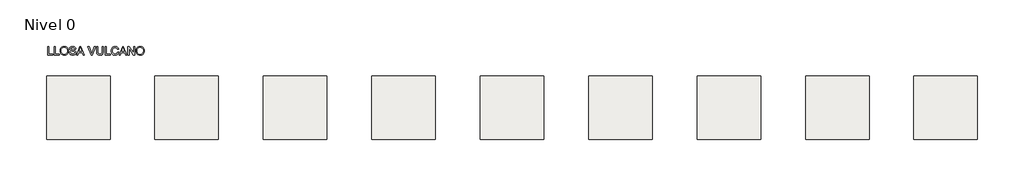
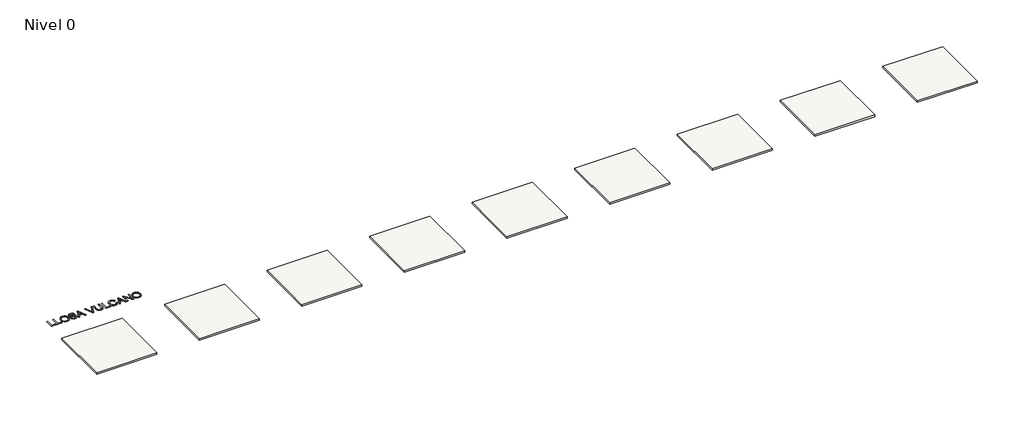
# One storey, incomplete: 9 slabs, 1 proxy.
"""IFC4 building model written with IfcOpenShell, lengths in millimetres."""

from ifc_helpers import new_model, si_unit, frame, origin, origin_with_axes, place, context, project, spatial, polyline, outline, extrude, element, save

model = new_model("IFC4")

# Units and contexts
model_context = context("Model", 3, world=origin())
ifc_project = project(units=[si_unit("LENGTHUNIT", "METRE", prefix="MILLI")], contexts=[model_context])

# Site, building, storey
site = spatial("IfcSite", under=ifc_project)
building = spatial("IfcBuilding", under=site)
storey = spatial("IfcBuildingStorey", under=building, Name="Nivel 0", Elevation=0.0)

# Proxy
placement = place(None, origin())
element("IfcBuildingElementProxy", 1, Name="Texto_plantilla_0.4", ObjectType="Texto_plantilla_0.4", at=placement, inside=storey, context=model_context, shape_type="SweptSolid", body=[
    extrude(outline(polyline([(-14473.0242569, -2202.864003), (-14473.0242569, -1801.0387624), (-14422.7961018, -1801.0387624), (-14422.7961018, -2152.635848), (-14221.8834815, -2152.635848), (-14221.8834815, -2202.864003), (-14473.0242569, -2202.864003)])), origin_with_axes(), (0.0, 0.0, 1.0), 10.0),
    extrude(outline(polyline([(-14165.376807, -2202.864003), (-14165.376807, -1801.0387624), (-14115.148652, -1801.0387624), (-14115.148652, -2152.635848), (-13914.2360317, -2152.635848), (-13914.2360317, -2202.864003), (-14165.376807, -2202.864003)])), origin_with_axes(), (0.0, 0.0, 1.0), 10.0),
    extrude(outline(polyline([(-13876.5649154, -2007.2488835), (-13873.2171892, -1960.1170685), (-13863.1740107, -1918.3931189), (-13846.43538, -1882.0770346), (-13823.0012969, -1851.1688157), (-13794.2758444, -1826.4900651), (-13761.6631055, -1808.8623862), (-13725.1630802, -1798.2857788), (-13684.7757685, -1794.7602431), (-13657.7425733, -1796.415712), (-13632.0705414, -1801.382119), (-13607.7596729, -1809.6594639), (-13584.8099677, -1821.2477467), (-13563.8652195, -1835.7974796), (-13545.5692216, -1852.9591747), (-13529.921974, -1872.7328319), (-13516.9234769, -1895.1184513), (-13506.7086201, -1919.6071295), (-13499.4122939, -1945.6899629), (-13493.5752329, -2002.6380958), (-13495.1111402, -2032.295516), (-13499.7188622, -2060.3465181), (-13507.3983989, -2086.7911022), (-13518.1497502, -2111.6292682), (-13531.7184645, -2134.20496), (-13547.8500899, -2153.8621213), (-13566.5446267, -2170.6007521), (-13587.8020746, -2184.4208524), (-13610.7855023, -2195.236583), (-13634.6579781, -2202.9621049), (-13659.419502, -2207.597418), (-13685.0700741, -2209.1425224), (-13712.5753846, -2207.4349368), (-13738.5846417, -2202.3121801), (-13763.0978453, -2193.7742521), (-13786.1149955, -2181.8211529), (-13807.0352183, -2166.9158007), (-13825.2576398, -2149.5211137), (-13840.78226, -2129.6370919), (-13853.6090789, -2107.2637352), (-13870.8259562, -2058.6419982), (-13876.5649154, -2007.2488835)]), holes=[polyline([(-13826.3367603, -2007.7393928), (-13823.8259657, -2041.0388447), (-13816.2935818, -2070.598163), (-13803.7396087, -2096.4173477), (-13786.1640464, -2118.4963988), (-13764.7992995, -2136.1792601), (-13740.8777728, -2148.8098752), (-13714.3994662, -2156.3882443), (-13685.3643797, -2158.9143674), (-13655.8326526, -2156.3637189), (-13629.0416463, -2148.7117734), (-13604.9913608, -2135.9585309), (-13583.6817963, -2118.1039914), (-13566.2349926, -2095.5589564), (-13553.7729901, -2068.7342276), (-13546.2957885, -2037.6298049), (-13543.803388, -2002.2456883), (-13548.0708191, -1957.7810179), (-13560.8731126, -1919.3496121), (-13581.8791745, -1887.920227), (-13610.7579111, -1864.4616184), (-13645.5963361, -1849.8567032), (-13684.4814629, -1844.9883981), (-13712.5079396, -1847.3336459), (-13738.5110653, -1854.369389), (-13762.49084, -1866.0956276), (-13784.4472638, -1882.5123616), (-13802.7739185, -1904.4105374), (-13815.8643862, -1932.5811012), (-13823.7186668, -1967.024053), (-13826.3367603, -2007.7393928)])]), origin_with_axes(), (0.0, 0.0, 1.0), 10.0),
    extrude(outline(polyline([(-13443.3470778, -2064.7365766), (-13393.1189228, -2064.7365766), (-13387.3554382, -2092.6097691), (-13376.932115, -2115.0137826), (-13360.6717308, -2132.7947457), (-13337.3970632, -2146.798787), (-13308.9475223, -2155.8854723), (-13277.1625179, -2158.9143674), (-13249.1789608, -2156.6212363), (-13224.6780199, -2149.7418429), (-13204.8246549, -2138.8525359), (-13190.7838254, -2124.5296635), (-13182.4329041, -2108.0853384), (-13179.6492637, -2090.8316728), (-13181.7339283, -2074.0194656), (-13187.9879223, -2059.4881268), (-13200.6921138, -2047.0905036), (-13222.1273714, -2036.6794431), (-13295.2623121, -2017.5005284), (-13343.2709124, -2004.8085996), (-13373.989059, -1992.7298074), (-13398.992772, -1975.8317611), (-13416.7124214, -1955.3529967), (-13427.2706347, -1931.7349726), (-13430.7900391, -1905.4191472), (-13426.4367688, -1876.0008503), (-13413.376958, -1848.5691162), (-13391.9539631, -1825.3189741), (-13362.5111408, -1808.4454533), (-13327.1699438, -1798.1815456), (-13288.0518249, -1794.7602431), (-13245.6718191, -1798.3409611), (-13208.589314, -1809.0831154), (-13178.1286848, -1826.7659766), (-13155.6143067, -1851.1688157), (-13141.3650107, -1880.7710535), (-13135.699628, -1914.0521114), (-13185.9277831, -1914.0521114), (-13195.1493584, -1884.0819915), (-13203.5125425, -1872.2239285), (-13214.377324, -1862.4505302), (-13244.4210203, -1849.3539311), (-13286.0897876, -1844.9883981), (-13328.7395736, -1849.3048802), (-13345.0428774, -1854.7004828), (-13357.998455, -1862.2543264), (-13374.9210267, -1881.3106138), (-13380.561884, -1903.9476192), (-13376.564233, -1923.2491612), (-13364.5712799, -1938.7737814), (-13336.2198408, -1952.6551954), (-13282.5581205, -1966.8309149), (-13227.1796175, -1980.295396), (-13193.6778305, -1992.0430943), (-13165.0443485, -2010.2655158), (-13145.0683562, -2032.7553685), (-13133.3329205, -2059.2673976), (-13129.4211086, -2089.5563485), (-13133.9215317, -2120.5197498), (-13147.4228009, -2149.6437411), (-13169.3730933, -2174.7087677), (-13199.2205858, -2193.4952749), (-13235.1136058, -2205.2307105), (-13275.2004806, -2209.1425224), (-13324.4108288, -2204.9241422), (-13364.9146365, -2192.2690016), (-13397.1778874, -2171.1280496), (-13421.6665656, -2141.4522353), (-13437.3873895, -2105.3016979), (-13443.3470778, -2064.7365766)])), origin_with_axes(), (0.0, 0.0, 1.0), 10.0),
    extrude(outline(polyline([(-13100.8734658, -2202.864003), (-12940.4769159, -1801.0387624), (-12897.7045026, -1801.0387624), (-12737.3079527, -2202.864003), (-12790.3810619, -2202.864003), (-12836.3908367, -2077.2936154), (-13001.8886836, -2077.2936154), (-13047.8003566, -2202.864003), (-13100.8734658, -2202.864003)]), holes=[polyline([(-12983.4455329, -2027.0654603), (-12854.7358856, -2027.0654603), (-12890.9354739, -1928.2768818), (-12919.0907093, -1851.2669175), (-12944.1066849, -1919.6439177), (-12983.4455329, -2027.0654603)])]), origin_with_axes(), (0.0, 0.0, 1.0), 10.0),
    extrude(outline(polyline([(-12407.9799906, -2202.864003), (-12567.8860312, -1801.0387624), (-12514.126209, -1801.0387624), (-12407.0970738, -2090.5373672), (-12385.4165616, -2155.7751077), (-12364.0303549, -2090.5373672), (-12256.7069142, -1801.0387624), (-12202.947092, -1801.0387624), (-12356.0841038, -2202.864003), (-12407.9799906, -2202.864003)])), origin_with_axes(), (0.0, 0.0, 1.0), 10.0),
    extrude(outline(polyline([(-11892.5527899, -1801.0387624), (-11842.3246348, -1801.0387624), (-11842.3246348, -2032.8534703), (-11845.7336747, -2087.1405901), (-11855.9607941, -2128.9442475), (-11864.1461685, -2145.8974761), (-11875.0661324, -2161.1952357), (-11905.1098287, -2186.8243481), (-11924.2519552, -2196.5885493), (-11946.1654593, -2203.5629788), (-11998.3066008, -2209.1425224), (-12049.3073081, -2204.2864801), (-12090.0808959, -2189.7183531), (-12106.6355856, -2178.9179508), (-12120.6396269, -2165.9409135), (-12132.0930197, -2150.7872409), (-12140.995764, -2133.4569333), (-12152.436894, -2089.8874423), (-12156.2506041, -2032.8534703), (-12156.2506041, -1801.0387624), (-12106.022449, -1801.0387624), (-12106.022449, -2031.0876368), (-12103.5453769, -2076.2267576), (-12096.1141606, -2107.6561427), (-12082.6496796, -2129.4224941), (-12062.0728133, -2145.5725137), (-12035.2419531, -2155.5789039), (-12003.0154903, -2158.9143674), (-11975.3323702, -2157.2650297), (-11951.9289439, -2152.3170169), (-11932.8052115, -2144.0703288), (-11917.961173, -2132.5249656), (-11906.8450054, -2116.2891068), (-11898.9048857, -2093.9709325), (-11894.1408139, -2065.5704424), (-11892.5527899, -2031.0876368), (-11892.5527899, -1801.0387624)])), origin_with_axes(), (0.0, 0.0, 1.0), 10.0),
    extrude(outline(polyline([(-11754.4253635, -2202.864003), (-11754.4253635, -1801.0387624), (-11704.1972084, -1801.0387624), (-11704.1972084, -2152.635848), (-11503.2845881, -2152.635848), (-11503.2845881, -2202.864003), (-11754.4253635, -2202.864003)])), origin_with_axes(), (0.0, 0.0, 1.0), 10.0),
    extrude(outline(polyline([(-11164.2445413, -2060.0276871), (-11114.0163863, -2072.9771333), (-11123.9553315, -2104.2133804), (-11137.1929519, -2131.5071587), (-11153.7292476, -2154.8584684), (-11173.5642185, -2174.2673093), (-11196.2502749, -2189.525215), (-11221.339827, -2200.4237191), (-11248.8328747, -2206.9628216), (-11278.7294182, -2209.1425224), (-11309.35866, -2207.4931848), (-11336.9896635, -2202.545172), (-11361.6224288, -2194.2984839), (-11383.2569558, -2182.7531206), (-11402.1906158, -2168.0807604), (-11418.7207801, -2150.4530815), (-11432.8474487, -2129.8700838), (-11444.5706216, -2106.3317675), (-11460.3527592, -2054.4604062), (-11465.6134718, -1998.9102249), (-11459.6660462, -1940.3188858), (-11452.2317642, -1914.0214545), (-11441.8237694, -1889.7228487), (-11428.6750538, -1867.824673), (-11413.0186092, -1848.7285318), (-11394.8544357, -1832.4344251), (-11374.1825332, -1818.9423529), (-11351.7049433, -1808.3626798), (-11328.1237074, -1800.8057705), (-11277.6502977, -1794.7602431), (-11248.9217796, -1796.716149), (-11222.578363, -1802.5838668), (-11198.6200481, -1812.3633965), (-11177.0468348, -1826.0547381), (-11158.2143423, -1843.296141), (-11142.4781899, -1863.7258544), (-11129.8383777, -1887.3438785), (-11120.2949056, -1914.1502132), (-11170.5230607, -1926.1186408), (-11187.9361418, -1889.4898568), (-11211.7258442, -1864.3635165), (-11242.1864734, -1849.8321777), (-11279.612335, -1844.9883981), (-11322.7526303, -1850.3594753), (-11341.4349043, -1857.0733217), (-11358.1919292, -1866.4727067), (-11385.084103, -1891.6358351), (-11402.5830233, -1924.1566035), (-11412.1847433, -1960.9202775), (-11415.3853167, -1998.8121231), (-11411.5961321, -2045.2143054), (-11400.2285785, -2085.3379683), (-11380.8534601, -2117.6502702), (-11353.0415812, -2140.6183695), (-11319.6992098, -2154.3403679), (-11283.7326134, -2158.9143674), (-11261.8957513, -2157.3570002), (-11241.8063286, -2152.6848989), (-11223.4643455, -2144.8980633), (-11206.8698018, -2133.9964935), (-11192.4151051, -2120.0292405), (-11180.4926628, -2103.045355), (-11171.1024749, -2083.0448372), (-11164.2445413, -2060.0276871)])), origin_with_axes(), (0.0, 0.0, 1.0), 10.0),
    extrude(outline(polyline([(-11091.7472628, -2202.864003), (-10931.3507129, -1801.0387624), (-10888.5782996, -1801.0387624), (-10728.1817497, -2202.864003), (-10781.2548589, -2202.864003), (-10827.2646337, -2077.2936154), (-10992.7624806, -2077.2936154), (-11038.6741536, -2202.864003), (-11091.7472628, -2202.864003)]), holes=[polyline([(-10974.3193299, -2027.0654603), (-10845.6096826, -2027.0654603), (-10881.8092709, -1928.2768818), (-10909.9645063, -1851.2669175), (-10934.9804819, -1919.6439177), (-10974.3193299, -2027.0654603)])]), origin_with_axes(), (0.0, 0.0, 1.0), 10.0),
    extrude(outline(polyline([(-10674.5200293, -2202.864003), (-10674.5200293, -1801.0387624), (-10620.7602071, -1801.0387624), (-10410.8222152, -2119.3793156), (-10410.8222152, -1801.0387624), (-10360.5940601, -1801.0387624), (-10360.5940601, -2202.864003), (-10414.3538824, -2202.864003), (-10624.2918743, -1884.425348), (-10624.2918743, -2202.864003), (-10674.5200293, -2202.864003)])), origin_with_axes(), (0.0, 0.0, 1.0), 10.0),
    extrude(outline(polyline([(-10291.5303469, -2007.2488835), (-10288.1826207, -1960.1170685), (-10278.1394423, -1918.3931189), (-10261.4008115, -1882.0770346), (-10237.9667284, -1851.1688157), (-10209.2412759, -1826.4900651), (-10176.6285371, -1808.8623862), (-10140.1285118, -1798.2857788), (-10099.7412001, -1794.7602431), (-10072.7080048, -1796.415712), (-10047.0359729, -1801.382119), (-10022.7251044, -1809.6594639), (-9999.7753993, -1821.2477467), (-9978.830651, -1835.7974796), (-9960.5346531, -1852.9591747), (-9944.8874056, -1872.7328319), (-9931.8889084, -1895.1184513), (-9921.6740517, -1919.6071295), (-9914.3777254, -1945.6899629), (-9908.5406645, -2002.6380958), (-9910.0765718, -2032.295516), (-9914.6842938, -2060.3465181), (-9922.3638304, -2086.7911022), (-9933.1151817, -2111.6292682), (-9946.683896, -2134.20496), (-9962.8155215, -2153.8621213), (-9981.5100582, -2170.6007521), (-10002.7675062, -2184.4208524), (-10025.7509338, -2195.236583), (-10049.6234096, -2202.9621049), (-10074.3849336, -2207.597418), (-10100.0355057, -2209.1425224), (-10127.5408162, -2207.4349368), (-10153.5500732, -2202.3121801), (-10178.0632769, -2193.7742521), (-10201.080427, -2181.8211529), (-10222.0006498, -2166.9158007), (-10240.2230713, -2149.5211137), (-10255.7476915, -2129.6370919), (-10268.5745104, -2107.2637352), (-10285.7913878, -2058.6419982), (-10291.5303469, -2007.2488835)]), holes=[polyline([(-10241.3021918, -2007.7393928), (-10238.7913972, -2041.0388447), (-10231.2590134, -2070.598163), (-10218.7050403, -2096.4173477), (-10201.129478, -2118.4963988), (-10179.7647311, -2136.1792601), (-10155.8432043, -2148.8098752), (-10129.3648977, -2156.3882443), (-10100.3298113, -2158.9143674), (-10070.7980841, -2156.3637189), (-10044.0070778, -2148.7117734), (-10019.9567924, -2135.9585309), (-9998.6472278, -2118.1039914), (-9981.2004242, -2095.5589564), (-9968.7384216, -2068.7342276), (-9961.26122, -2037.6298049), (-9958.7688195, -2002.2456883), (-9963.0362507, -1957.7810179), (-9975.8385441, -1919.3496121), (-9996.844606, -1887.920227), (-10025.7233427, -1864.4616184), (-10060.5617676, -1849.8567032), (-10099.4468945, -1844.9883981), (-10127.4733712, -1847.3336459), (-10153.4764968, -1854.369389), (-10177.4562716, -1866.0956276), (-10199.4126953, -1882.5123616), (-10217.73935, -1904.4105374), (-10230.8298177, -1932.5811012), (-10238.6840983, -1967.024053), (-10241.3021918, -2007.7393928)])]), origin_with_axes(), (0.0, 0.0, 1.0), 10.0),
])

# Slabs
element("IfcSlab", 2, ObjectType="Breinco_Llosa_Vulcano_60x40x8_Arena", at=placement, inside=storey, context=model_context, shape_type="SweptSolid", body=[
    extrude(outline(polyline([(-11519.778769, -3205.0685147), (-11519.778769, -6205.0685147), (-14519.778769, -6205.0685147), (-14519.778769, -3205.0685147), (-11519.778769, -3205.0685147)])), frame((0.0, 0.0, -80.0), z_axis=(0.0, 0.0, 1.0), x_axis=(1.0, 0.0, 0.0)), (0.0, 0.0, 1.0), 80.0),
])
element("IfcSlab", 3, ObjectType="Breinco_Llosa_Vulcano_60x40x8_Ceniza", at=placement, inside=storey, context=model_context, shape_type="SweptSolid", body=[
    extrude(outline(polyline([(-6399.778769, -3205.0685147), (-6399.778769, -6205.0685147), (-9399.778769, -6205.0685147), (-9399.778769, -3205.0685147), (-6399.778769, -3205.0685147)])), frame((0.0, 0.0, -80.0), z_axis=(0.0, 0.0, 1.0), x_axis=(1.0, 0.0, 0.0)), (0.0, 0.0, 1.0), 80.0),
])
element("IfcSlab", 4, ObjectType="Breinco_Llosa_Vulcano_60x40x8_Corten", at=placement, inside=storey, context=model_context, shape_type="SweptSolid", body=[
    extrude(outline(polyline([(-1279.778769, -3205.0685147), (-1279.778769, -6205.0685147), (-4279.778769, -6205.0685147), (-4279.778769, -3205.0685147), (-1279.778769, -3205.0685147)])), frame((0.0, 0.0, -80.0), z_axis=(0.0, 0.0, 1.0), x_axis=(1.0, 0.0, 0.0)), (0.0, 0.0, 1.0), 80.0),
])
element("IfcSlab", 5, ObjectType="Breinco_Llosa_Vulcano_60x40x8_Desierto", at=placement, inside=storey, context=model_context, shape_type="SweptSolid", body=[
    extrude(outline(polyline([(3840.221231, -3205.0685147), (3840.221231, -6205.0685147), (840.221231, -6205.0685147), (840.221231, -3205.0685147), (3840.221231, -3205.0685147)])), frame((0.0, 0.0, -80.0), z_axis=(0.0, 0.0, 1.0), x_axis=(1.0, 0.0, 0.0)), (0.0, 0.0, 1.0), 80.0),
])
element("IfcSlab", 6, ObjectType="Breinco_Llosa_Vulcano_60x40x8_Marfil", at=placement, inside=storey, context=model_context, shape_type="SweptSolid", body=[
    extrude(outline(polyline([(8960.221231, -3205.0685147), (8960.221231, -6205.0685147), (5960.221231, -6205.0685147), (5960.221231, -3205.0685147), (8960.221231, -3205.0685147)])), frame((0.0, 0.0, -80.0), z_axis=(0.0, 0.0, 1.0), x_axis=(1.0, 0.0, 0.0)), (0.0, 0.0, 1.0), 80.0),
])
element("IfcSlab", 7, ObjectType="Breinco_Llosa_Vulcano_60x40x8_Mediterraneo", at=placement, inside=storey, context=model_context, shape_type="SweptSolid", body=[
    extrude(outline(polyline([(14080.221231, -3205.0685147), (14080.221231, -6205.0685147), (11080.221231, -6205.0685147), (11080.221231, -3205.0685147), (14080.221231, -3205.0685147)])), frame((0.0, 0.0, -80.0), z_axis=(0.0, 0.0, 1.0), x_axis=(1.0, 0.0, 0.0)), (0.0, 0.0, 1.0), 80.0),
])
element("IfcSlab", 8, ObjectType="Breinco_Llosa_Vulcano_60x40x8_Grey", at=placement, inside=storey, context=model_context, shape_type="SweptSolid", body=[
    extrude(outline(polyline([(19200.221231, -3205.0685147), (19200.221231, -6205.0685147), (16200.221231, -6205.0685147), (16200.221231, -3205.0685147), (19200.221231, -3205.0685147)])), frame((0.0, 0.0, -80.0), z_axis=(0.0, 0.0, 1.0), x_axis=(1.0, 0.0, 0.0)), (0.0, 0.0, 1.0), 80.0),
])
element("IfcSlab", 9, ObjectType="Breinco_Llosa_Vulcano_60x40x8_Black", at=placement, inside=storey, context=model_context, shape_type="SweptSolid", body=[
    extrude(outline(polyline([(24320.221231, -3205.0685147), (24320.221231, -6205.0685147), (21320.221231, -6205.0685147), (21320.221231, -3205.0685147), (24320.221231, -3205.0685147)])), frame((0.0, 0.0, -80.0), z_axis=(0.0, 0.0, 1.0), x_axis=(1.0, 0.0, 0.0)), (0.0, 0.0, 1.0), 80.0),
])
element("IfcSlab", 10, ObjectType="Breinco_Llosa_Vulcano_60x40x8_White", at=placement, inside=storey, context=model_context, shape_type="SweptSolid", body=[
    extrude(outline(polyline([(29440.221231, -3205.0685147), (29440.221231, -6205.0685147), (26440.221231, -6205.0685147), (26440.221231, -3205.0685147), (29440.221231, -3205.0685147)])), frame((0.0, 0.0, -80.0), z_axis=(0.0, 0.0, 1.0), x_axis=(1.0, 0.0, 0.0)), (0.0, 0.0, 1.0), 80.0),
])

save(model, "model.ifc")
